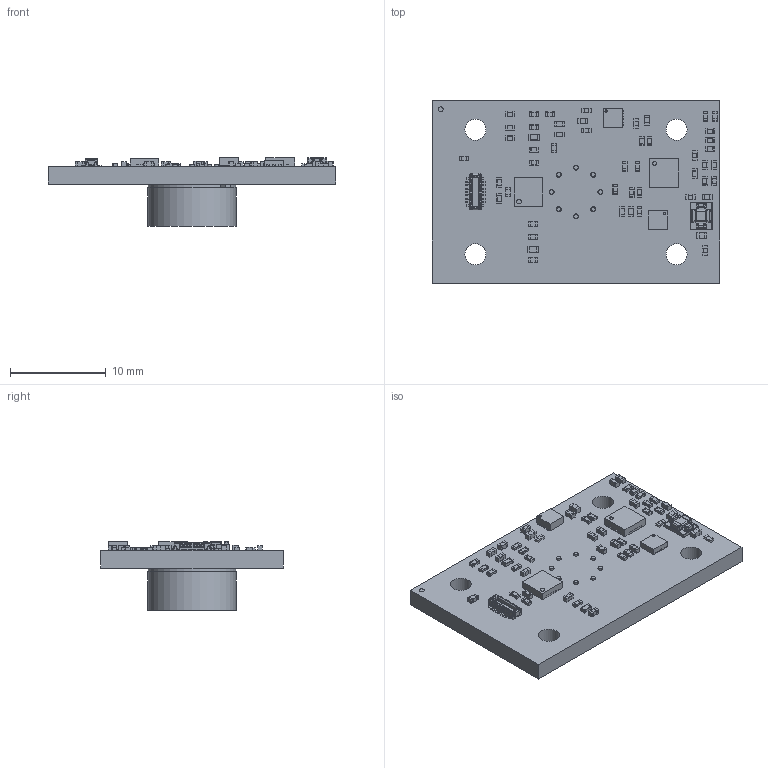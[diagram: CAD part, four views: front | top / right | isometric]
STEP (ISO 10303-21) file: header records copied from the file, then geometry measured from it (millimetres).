
FILE_DESCRIPTION(('Open CASCADE Model'),'2;1');
FILE_NAME('Open CASCADE Shape Model','2021-12-07T09:41:25',('Author'),( 'Open CASCADE'),'Open CASCADE STEP processor 6.8','Open CASCADE 6.8' ,'Unknown');
FILE_SCHEMA(('AUTOMOTIVE_DESIGN { 1 0 10303 214 1 1 1 1 }'));
Length unit declared in the file: millimetre
Products named in the file (139): PCB; Board; Open CASCADE STEP translator 6.8 7.1.1; M3; 6273687888; Cylinder; U2; SIP0009B; SOLDERMASK-BTM-SIP; SUBSTRATE-SIP; METAL-SIP0009B; BUM-PATTERN_ASM; BUMP-SIP; SOLDERMASK-TOP-SIP; INDTR-TOKO-MDT2012-CLR_ASM; INDTR-BODY-MDT; INDTR-TERMNL-MDT; CAP-GRM155R60J_ASM; CAP-BODY-GRM; CAP-TERMNL-GRM; SOLDER-CAP; SOLDER-IND; 6273685648; Extruded; C6; 6273687568; 6273687088; C21; User_Library-cap_0402; C16; C15; R25; User_Library-res0402-1; R24; R23; M2; 6273687968; C14; DET; TO-39-8pin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
Assembly tree (205 placements, depth 5):
  PCB
    Board
      Open CASCADE STEP translator 6.8 7.1.1
    M3
      6273687888
        Cylinder
    U2
      SIP0009B
        SOLDERMASK-BTM-SIP
        SUBSTRATE-SIP
        METAL-SIP0009B
        BUM-PATTERN_ASM
          BUMP-SIP  x9
        SOLDERMASK-TOP-SIP
        INDTR-TOKO-MDT2012-CLR_ASM
          INDTR-BODY-MDT
          INDTR-TERMNL-MDT  x2
        CAP-GRM155R60J_ASM  x2
          CAP-BODY-GRM
          CAP-TERMNL-GRM
        SOLDER-CAP  x4
        SOLDER-IND  x2
      6273685648
        Extruded
    C6
      6273687568
        Extruded
      6273687088  x2
        Extruded
    C21
      User_Library-cap_0402
    C16
      User_Library-cap_0402
    C15
      User_Library-cap_0402
    R25
      User_Library-res0402-1
    R24
      User_Library-res0402-1
    R23
      User_Library-res0402-1
    M2
      6273687968
        Cylinder
    C14
      6273687568
        Extruded
      6273687088  x2
        Extruded
    DET
      TO-39-8pin
        to39
          Pins
          Open CASCADE STEP translator 6.8 7.13.1.1.2
        Open CASCADE STEP translator 6.8 7.13.1.2
    C13
      User_Library-cap_0402
    C12
      User_Library-cap_0402
    C7
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Bounding box: 30 x 19 x 7.15 mm (x, y, z)
Volume: 1407.3 mm3; surface area: 2340.4 mm2
Topology: 152 solids, 152 shells, 3475 faces, 8547 edges, 5222 vertices
Faces by surface type: plane 2449, cylinder 759, sphere 174, bspline 53, torus 24, cone 16
Full cylindrical faces by diameter (mm): 0.25 x1, 0.43 x16, 0.5 x10, 1.5 x24, 2.2 x4, 7.62 x1, 9.2 x1
Entity records: 61587 total; most frequent: CARTESIAN_POINT 9278, DIRECTION 8433, ORIENTED_EDGE 8290, EDGE_CURVE 4145, LINE 3429, VECTOR 3429, VERTEX_POINT 2654, AXIS2_PLACEMENT_3D 2502
